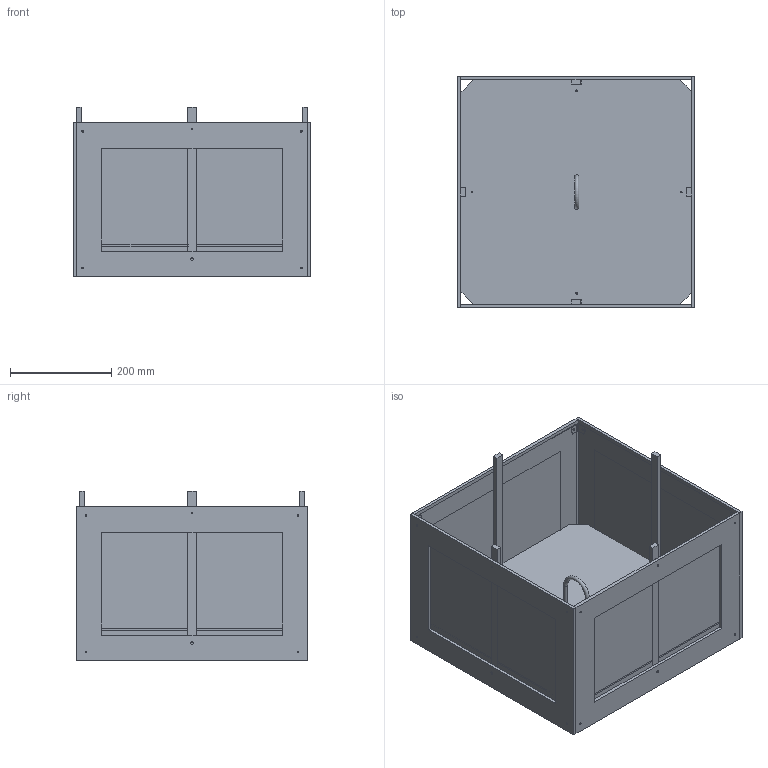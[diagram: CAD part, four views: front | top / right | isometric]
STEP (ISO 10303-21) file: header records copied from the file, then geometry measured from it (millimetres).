
FILE_DESCRIPTION(/* description */ ('STEP AP242','CAx-IF Rec.Pracs.---Representation and Presentation of Product Manufacturing Information (PMI)---4.0---2014-10-13','CAx-IF Rec.Pracs.---3D Tessellated Geometry---0.4---2014-09-14','2;1'),/* implementation_level */ '2;1');
FILE_NAME(/* name */ '67647aacd25035344276dfcc',/* time_stamp */ '2024-12-19T19:57:33Z',/* author */ (''),/* organization */ (''),/* preprocessor_version */ 'ST-DEVELOPER v20',/* originating_system */ 'ONSHAPE BY PTC INC, 1.191',/* authorisation */ ' ');
FILE_SCHEMA (('AP242_MANAGED_MODEL_BASED_3D_ENGINEERING_MIM_LF { 1 0 10303 442 1 1 4 }'));
Length unit declared in the file: metre
Products named in the file (8): Assembly 1; Part 1
Assembly tree (26 placements, depth 2):
  Assembly 1
    Part 1  x12
    Part 1  x4
    Part 1  x2
    Part 1
    Part 1  x2
    Part 1
    Part 1  x4
Bounding box: 469.9 x 457.2 x 334.99 mm (x, y, z)
Volume: 2591722.2 mm3; surface area: 2128163.7 mm2
Topology: 26 solids, 26 shells, 365 faces, 919 edges, 618 vertices
Faces by surface type: plane 200, cylinder 164, torus 1
Full cylindrical faces by diameter (mm): 3.175 x32, 3.226 x24, 5.159 x4, 5.21 x4, 7.938 x2, 8.037 x2
Entity records: 3372 total; most frequent: DIRECTION 556, CARTESIAN_POINT 530, ORIENTED_EDGE 460, EDGE_CURVE 230, AXIS2_PLACEMENT_3D 196, EDGE_LOOP 176, FACE_BOUND 176, VERTEX_POINT 170
